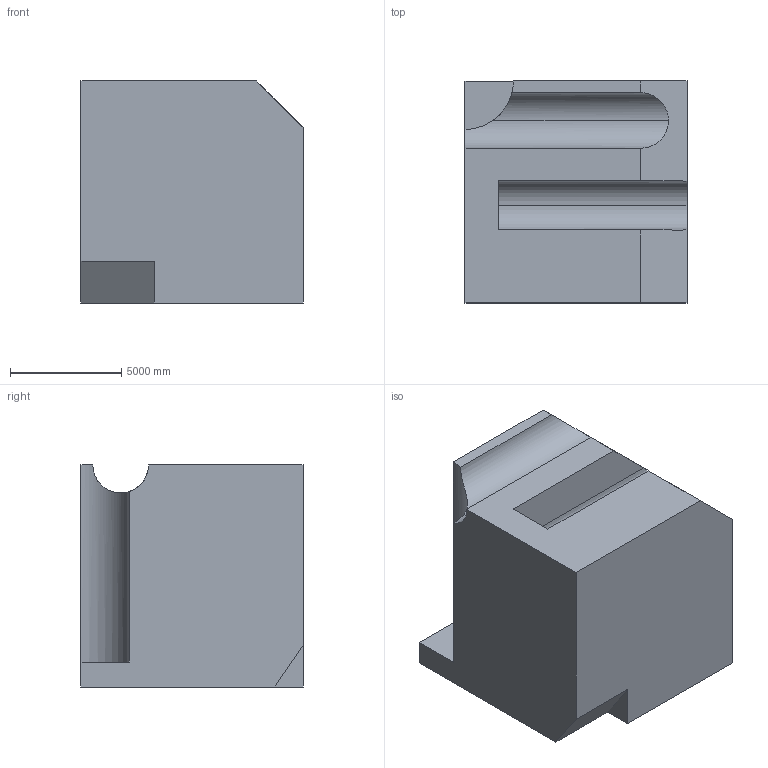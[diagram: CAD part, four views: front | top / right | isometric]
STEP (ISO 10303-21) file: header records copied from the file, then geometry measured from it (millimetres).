
FILE_DESCRIPTION (( 'STEP AP203' ), '1' );
FILE_NAME ('1538.STEP', '2022-08-18T15:09:40', ( 'user' ), ( '' ), 'SwSTEP 2.0', 'SolidWorks 2021', '' );
FILE_SCHEMA (( 'CONFIG_CONTROL_DESIGN' ));
Length unit declared in the file: centimetre
Products named in the file (1): 1538
Bounding box: 10000 x 10000 x 10000 mm (x, y, z)
Volume: 846091693423.2 mm3; surface area: 665386467.3 mm2
Topology: 1 solids, 1 shells, 23 faces, 60 edges, 40 vertices
Faces by surface type: plane 16, cylinder 7
Entity records: 889 total; most frequent: CARTESIAN_POINT 247, ORIENTED_EDGE 120, DIRECTION 113, EDGE_CURVE 60, VECTOR 43, LINE 43, VERTEX_POINT 40, AXIS2_PLACEMENT_3D 35
